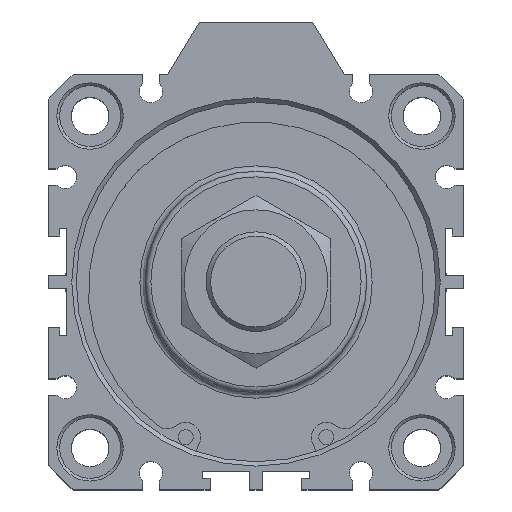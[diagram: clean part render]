
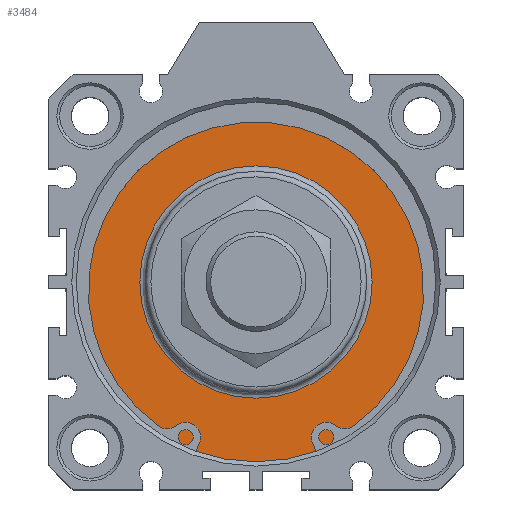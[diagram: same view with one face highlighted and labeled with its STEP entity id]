
A CAD part, top view. The second image highlights one B-rep face of the part: STEP entity #3484.
In plain terms, the highlighted planar face has unit normal (0, 0, 1).
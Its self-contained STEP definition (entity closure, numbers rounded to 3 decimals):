
#3433=CARTESIAN_POINT('',(2.99,22.555,57.3));
#3434=VERTEX_POINT('',#3433);
#3435=CARTESIAN_POINT('',(2.99,1.555,57.3));
#3436=DIRECTION('',(0.0,0.0,1.0));
#3437=DIRECTION('',(0.0,-1.0,0.0));
#3438=AXIS2_PLACEMENT_3D('',#3435,#3436,#3437);
#3439=CIRCLE('',#3438,21.0);
#3440=EDGE_CURVE('',#3434,#3434,#3439,.T.);
#3465=CARTESIAN_POINT('',(2.99,27.805,57.3));
#3466=DIRECTION('',(0.0,0.0,1.0));
#3467=DIRECTION('',(1.0,0.0,0.0));
#3468=AXIS2_PLACEMENT_3D('',#3465,#3466,#3467);
#3469=PLANE('',#3468);
#3470=CARTESIAN_POINT('',(2.99,34.055,57.3));
#3471=VERTEX_POINT('',#3470);
#3472=CARTESIAN_POINT('',(2.99,1.555,57.3));
#3473=DIRECTION('',(0.0,0.0,-1.0));
#3474=DIRECTION('',(0.0,1.0,0.0));
#3475=AXIS2_PLACEMENT_3D('',#3472,#3473,#3474);
#3476=CIRCLE('',#3475,32.5);
#3477=EDGE_CURVE('',#3471,#3471,#3476,.T.);
#3478=ORIENTED_EDGE('',*,*,#3477,.F.);
#3479=EDGE_LOOP('',(#3478));
#3480=FACE_OUTER_BOUND('',#3479,.T.);
#3481=ORIENTED_EDGE('',*,*,#3440,.F.);
#3482=EDGE_LOOP('',(#3481));
#3483=FACE_BOUND('',#3482,.T.);
#3484=ADVANCED_FACE('',(#3480,#3483),#3469,.T.);
